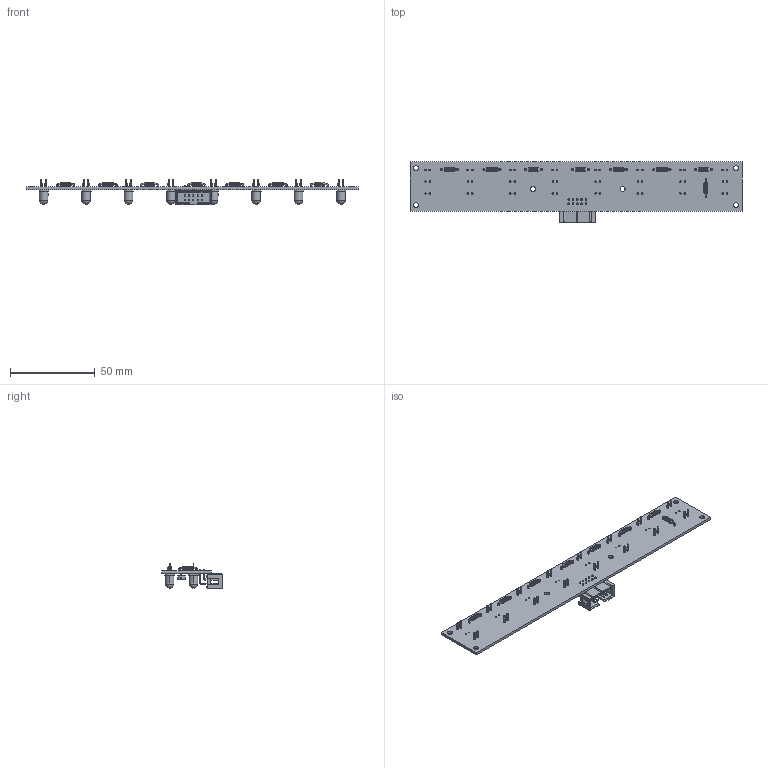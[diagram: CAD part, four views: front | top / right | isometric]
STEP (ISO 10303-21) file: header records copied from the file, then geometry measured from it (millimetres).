
FILE_DESCRIPTION(('Open CASCADE Model'),'2;1');
FILE_NAME('Open CASCADE Shape Model','2024-08-10T15:22:02',('Author'),( 'Open CASCADE'),'Open CASCADE STEP processor 7.5','Open CASCADE 7.5' ,'Unknown');
FILE_SCHEMA(('AUTOMOTIVE_DESIGN { 1 0 10303 214 1 1 1 1 }'));
Length unit declared in the file: millimetre
Products named in the file (55): PCB; Board; Open CASCADE STEP translator 7.5 1.1.1; OUT; User Library-IDC Socket Male 10pin Angled THT Goldplated 2_54mm; R8; SW3dPS-AXIAL_RESISTOR(0.25W); R7; R6; R5; R4; R3; R2; R1; LED16; SW3dPS-LEDd5R; SW3dPS-LEDd5R_Open CASCADE STEP translator 6.2 836.1; SW3dPS-LEDd5R_352699216; SW3dPS-LEDd5R_Extruded3; SW3dPS-LEDd5R_352705488; SW3dPS-LEDd5R_Extruded; SW3dPS-LEDd5R_352479760; SW3dPS-LEDd5R_Cylinder; SW3dPS-LEDd5R_352715600; SW3dPS-LEDd5R_Extruded4; SW3dPS-LEDd5R_352477856; SW3dPS-LEDd5R_Sphere; SW3dPS-LEDd5R_352707536; SW3dPS-LEDd5R_Extruded2; SW3dPS-LEDd5R_352699728; SW3dPS-LEDd5R_Extruded1; LED15; LED14; LED13; LED12; LED11; LED10; LED9; LED8; LED7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
Assembly tree (85 placements, depth 6):
  PCB
    Board
      Open CASCADE STEP translator 7.5 1.1.1
    OUT
      User Library-IDC Socket Male 10pin Angled THT Goldplated 2_54mm
    R8
      SW3dPS-AXIAL_RESISTOR(0.25W)
    R7
      SW3dPS-AXIAL_RESISTOR(0.25W)
    R6
      SW3dPS-AXIAL_RESISTOR(0.25W)
    R5
      SW3dPS-AXIAL_RESISTOR(0.25W)
    R4
      SW3dPS-AXIAL_RESISTOR(0.25W)
    R3
      SW3dPS-AXIAL_RESISTOR(0.25W)
    R2
      SW3dPS-AXIAL_RESISTOR(0.25W)
    R1
      SW3dPS-AXIAL_RESISTOR(0.25W)
    LED16
      SW3dPS-LEDd5R
        SW3dPS-LEDd5R_Open CASCADE STEP translator 6.2 836.1
          SW3dPS-LEDd5R_352699216
            SW3dPS-LEDd5R_Extruded3
          SW3dPS-LEDd5R_352705488  x2
            SW3dPS-LEDd5R_Extruded
          SW3dPS-LEDd5R_352479760
            SW3dPS-LEDd5R_Cylinder
          SW3dPS-LEDd5R_352715600
            SW3dPS-LEDd5R_Extruded4
          SW3dPS-LEDd5R_352477856
            SW3dPS-LEDd5R_Sphere
          SW3dPS-LEDd5R_352707536  x2
            SW3dPS-LEDd5R_Extruded2
          SW3dPS-LEDd5R_352699728
            SW3dPS-LEDd5R_Extruded1
    LED15
      SW3dPS-LEDd5R
        SW3dPS-LEDd5R_Open CASCADE STEP translator 6.2 836.1
          SW3dPS-LEDd5R_352699216
            SW3dPS-LEDd5R_Extruded3
          SW3dPS-LEDd5R_352705488  x2
            SW3dPS-LEDd5R_Extruded
          SW3dPS-LEDd5R_352479760
            SW3dPS-LEDd5R_Cylinder
          SW3dPS-LEDd5R_352715600
            SW3dPS-LEDd5R_Extruded4
          SW3dPS-LEDd5R_352477856
            SW3dPS-LEDd5R_Sphere
          SW3dPS-LEDd5R_352707536  x2
            SW3dPS-LEDd5R_Extruded2
          SW3dPS-LEDd5R_352699728
            SW3dPS-LEDd5R_Extruded1
    LED14
      SW3dPS-LEDd5R
        SW3dPS-LEDd5R_Open CASCADE STEP translator 6.2 836.1
          SW3dPS-LEDd5R_352699216
            SW3dPS-LEDd5R_Extruded3
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Bounding box: 195.58 x 35.56 x 15.16 mm (x, y, z)
Volume: 12780.6 mm3; surface area: 20589.2 mm2
Topology: 161 solids, 167 shells, 2628 faces, 6469 edges, 4146 vertices
Faces by surface type: plane 1846, cylinder 600, revolution 96, bspline 54, sphere 32
Full cylindrical faces by diameter (mm): 0.788 x16, 0.812 x48, 1.016 x10, 3 x6
Entity records: 21061 total; most frequent: CARTESIAN_POINT 3453, DIRECTION 2951, ORIENTED_EDGE 2748, EDGE_CURVE 1390, LINE 1019, VECTOR 1019, AXIS2_PLACEMENT_3D 960, VERTEX_POINT 894
